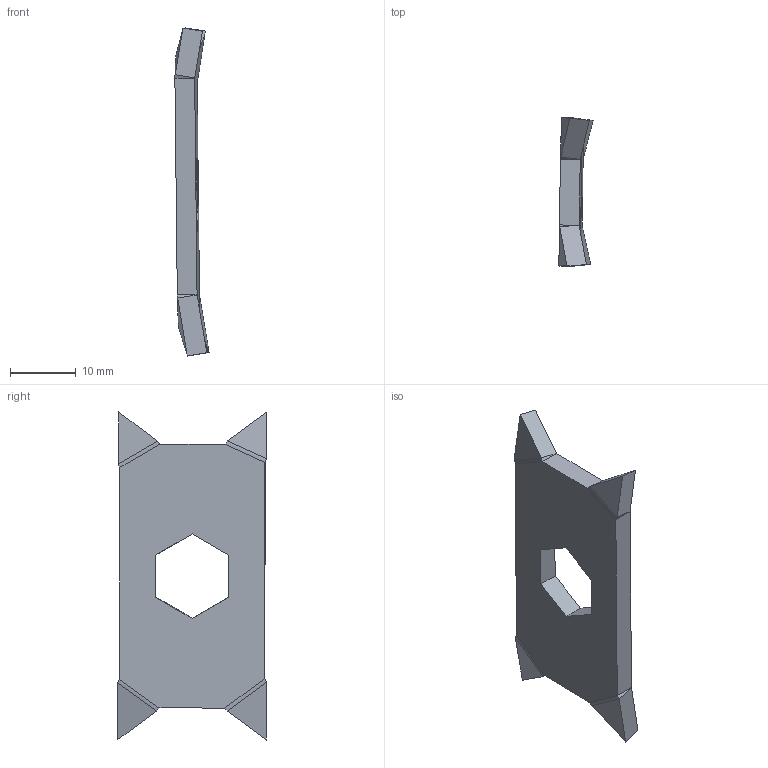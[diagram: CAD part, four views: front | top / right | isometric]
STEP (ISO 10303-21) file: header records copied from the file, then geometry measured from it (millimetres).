
FILE_DESCRIPTION(/* description */ (''),/* implementation_level */ '2;1');
FILE_NAME(/* name */ '\\192.168.101.115\営業本部\EG\X2\30BB30F330BF30FC\X0\\99_各個人\08_中村紗\３Ｄ\MDR○○切替用\取付金具P-0B1.stp',/* time_stamp */ '2014-12-19T09:20:49+09:00',/* author */ ('UMME'),/* organization */ (''),/* preprocessor_version */ 'ST-DEVELOPER v15.2',/* originating_system */ 'Autodesk Inventor 2014',/* authorisation */ '');
FILE_SCHEMA (('AUTOMOTIVE_DESIGN { 1 0 10303 214 3 1 1 }'));
Length unit declared in the file: millimetre
Products named in the file (1): 取付金具P-0B1
Bounding box: 5.19 x 22.67 x 49.78 mm (x, y, z)
Volume: 2506.4 mm3; surface area: 2237.1 mm2
Topology: 1 solids, 1 shells, 44 faces, 96 edges, 54 vertices
Faces by surface type: plane 28, cylinder 8, bspline 8
Entity records: 1280 total; most frequent: CARTESIAN_POINT 363, ORIENTED_EDGE 192, DIRECTION 154, EDGE_CURVE 96, LINE 80, VECTOR 80, VERTEX_POINT 54, EDGE_LOOP 46
